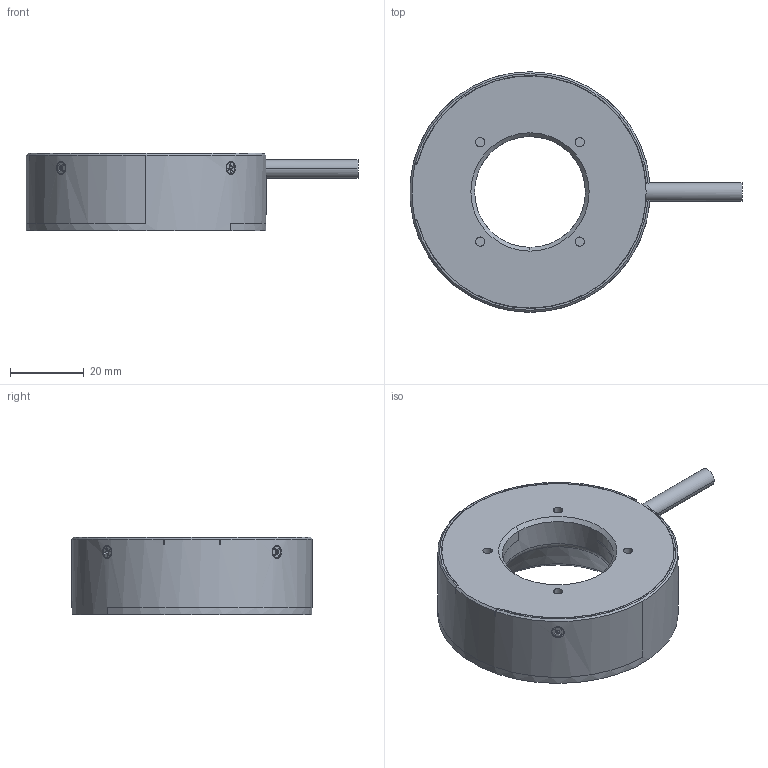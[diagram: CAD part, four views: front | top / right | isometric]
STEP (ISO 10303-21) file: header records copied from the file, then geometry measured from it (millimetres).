
FILE_DESCRIPTION((''),'2;1');
FILE_NAME('MV-LRDS-H-65-30-W','2022-09-02T14:04:06',('qiaoxuan5'),(''),'CREO PARAMETRIC BY PTC INC, 2020044','CREO PARAMETRIC BY PTC INC, 2020044','');
FILE_SCHEMA(('CONFIG_CONTROL_DESIGN'));
Length unit declared in the file: metre
Products named in the file (1): MV-LRDS-H-65-30-W
Bounding box: 89.79 x 65 x 21 mm (x, y, z)
Volume: 50308.6 mm3; surface area: 13166.5 mm2
Topology: 1 solids, 9 shells, 446 faces, 1108 edges, 682 vertices
Faces by surface type: plane 262, cylinder 120, cone 60, torus 4
Entity records: 13712 total; most frequent: CARTESIAN_POINT 3134, ORIENTED_EDGE 2200, DIRECTION 2160, EDGE_CURVE 1100, AXIS2_PLACEMENT_3D 734, VECTOR 692, LINE 692, VERTEX_POINT 682
